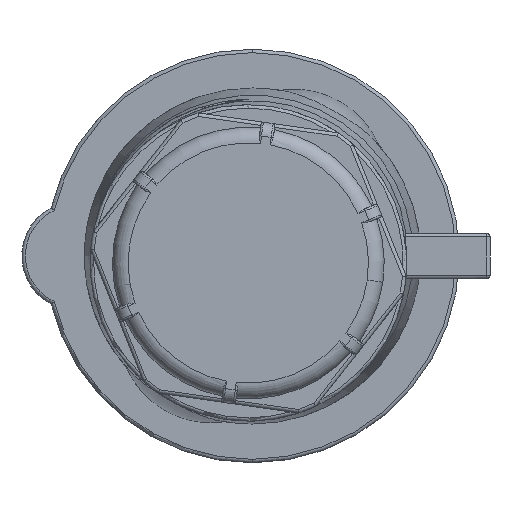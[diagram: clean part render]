
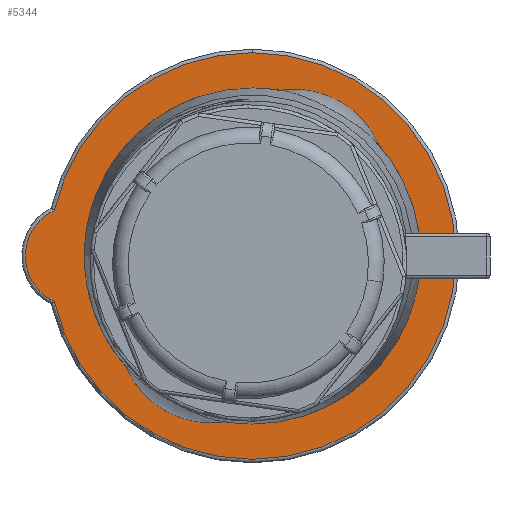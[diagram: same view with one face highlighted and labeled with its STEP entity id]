
A CAD part, front view. The second image highlights one B-rep face of the part: STEP entity #5344.
In plain terms, the highlighted planar face has unit normal (0, -1, 0).
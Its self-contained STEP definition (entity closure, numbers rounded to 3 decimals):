
#223 = DIRECTION ( 'NONE',  ( 0., 0., 1. ) ) ;
#475 = DIRECTION ( 'NONE',  ( 0., -1., 0. ) ) ;
#939 = AXIS2_PLACEMENT_3D ( 'NONE', #6172, #475, #3461 ) ;
#1205 = AXIS2_PLACEMENT_3D ( 'NONE', #11692, #14218, #14305 ) ;
#1916 = AXIS2_PLACEMENT_3D ( 'NONE', #7369, #2969, #11297 ) ;
#2148 = VERTEX_POINT ( 'NONE', #3324 ) ;
#2969 = DIRECTION ( 'NONE',  ( 0., -1., 0. ) ) ;
#3324 = CARTESIAN_POINT ( 'NONE',  ( -458.749, 7.263, 7.517 ) ) ;
#3461 = DIRECTION ( 'NONE',  ( 0., 0., 1. ) ) ;
#3882 = EDGE_CURVE ( 'NONE', #15169, #5036, #12633, .T. ) ;
#4035 = CIRCLE ( 'NONE', #11185, 29.1 ) ;
#5036 = VERTEX_POINT ( 'NONE', #17151 ) ;
#5344 = ADVANCED_FACE ( 'NONE', ( #14126, #7226 ), #8622, .F. ) ;
#5454 = CIRCLE ( 'NONE', #12598, 24.05 ) ;
#5579 = EDGE_LOOP ( 'NONE', ( #18109, #8547, #13973, #7674 ) ) ;
#6172 = CARTESIAN_POINT ( 'NONE',  ( -455.688, 7.263, 1. ) ) ;
#6511 = VERTEX_POINT ( 'NONE', #12797 ) ;
#6630 = CARTESIAN_POINT ( 'NONE',  ( -430.388, 7.263, 25.05 ) ) ;
#7127 = DIRECTION ( 'NONE',  ( 0., -1., 0. ) ) ;
#7226 = FACE_BOUND ( 'NONE', #9422, .T. ) ;
#7369 = CARTESIAN_POINT ( 'NONE',  ( -430.388, 7.263, 1. ) ) ;
#7483 = DIRECTION ( 'NONE',  ( 0., 0., 1. ) ) ;
#7674 = ORIENTED_EDGE ( 'NONE', *, *, #9743, .T. ) ;
#7781 = VERTEX_POINT ( 'NONE', #15203 ) ;
#7991 = EDGE_CURVE ( 'NONE', #6511, #15169, #9077, .T. ) ;
#8547 = ORIENTED_EDGE ( 'NONE', *, *, #7991, .T. ) ;
#8622 = PLANE ( 'NONE',  #1205 ) ;
#8985 = AXIS2_PLACEMENT_3D ( 'NONE', #15465, #15750, #15839 ) ;
#9077 = CIRCLE ( 'NONE', #1916, 29.1 ) ;
#9422 = EDGE_LOOP ( 'NONE', ( #16076, #10071 ) ) ;
#9580 = DIRECTION ( 'NONE',  ( 0., -1., 0. ) ) ;
#9743 = EDGE_CURVE ( 'NONE', #5036, #2148, #4035, .T. ) ;
#10071 = ORIENTED_EDGE ( 'NONE', *, *, #11389, .F. ) ;
#10978 = CARTESIAN_POINT ( 'NONE',  ( -430.388, 7.263, 1. ) ) ;
#11142 = AXIS2_PLACEMENT_3D ( 'NONE', #13173, #7127, #223 ) ;
#11185 = AXIS2_PLACEMENT_3D ( 'NONE', #17643, #17460, #7483 ) ;
#11297 = DIRECTION ( 'NONE',  ( 0., 0., 1. ) ) ;
#11389 = EDGE_CURVE ( 'NONE', #18163, #7781, #5454, .T. ) ;
#11692 = CARTESIAN_POINT ( 'NONE',  ( -463.258, 7.263, -28.449 ) ) ;
#11862 = CARTESIAN_POINT ( 'NONE',  ( -430.388, 7.263, -28.1 ) ) ;
#12598 = AXIS2_PLACEMENT_3D ( 'NONE', #10978, #9580, #16650 ) ;
#12633 = CIRCLE ( 'NONE', #11142, 29.1 ) ;
#12797 = CARTESIAN_POINT ( 'NONE',  ( -458.749, 7.263, -5.517 ) ) ;
#13173 = CARTESIAN_POINT ( 'NONE',  ( -430.388, 7.263, 1. ) ) ;
#13973 = ORIENTED_EDGE ( 'NONE', *, *, #3882, .T. ) ;
#14126 = FACE_OUTER_BOUND ( 'NONE', #5579, .T. ) ;
#14218 = DIRECTION ( 'NONE',  ( 0., 1., 0. ) ) ;
#14305 = DIRECTION ( 'NONE',  ( 1., 0., 0. ) ) ;
#15169 = VERTEX_POINT ( 'NONE', #11862 ) ;
#15203 = CARTESIAN_POINT ( 'NONE',  ( -430.388, 7.263, -23.05 ) ) ;
#15243 = CIRCLE ( 'NONE', #939, 7.2 ) ;
#15465 = CARTESIAN_POINT ( 'NONE',  ( -430.388, 7.263, 1. ) ) ;
#15750 = DIRECTION ( 'NONE',  ( 0., -1., 0. ) ) ;
#15839 = DIRECTION ( 'NONE',  ( 0., 0., 1. ) ) ;
#16076 = ORIENTED_EDGE ( 'NONE', *, *, #18240, .F. ) ;
#16650 = DIRECTION ( 'NONE',  ( 0., 0., 1. ) ) ;
#17023 = CIRCLE ( 'NONE', #8985, 24.05 ) ;
#17151 = CARTESIAN_POINT ( 'NONE',  ( -430.388, 7.263, 30.1 ) ) ;
#17460 = DIRECTION ( 'NONE',  ( 0., -1., 0. ) ) ;
#17643 = CARTESIAN_POINT ( 'NONE',  ( -430.388, 7.263, 1. ) ) ;
#18017 = EDGE_CURVE ( 'NONE', #2148, #6511, #15243, .T. ) ;
#18109 = ORIENTED_EDGE ( 'NONE', *, *, #18017, .T. ) ;
#18163 = VERTEX_POINT ( 'NONE', #6630 ) ;
#18240 = EDGE_CURVE ( 'NONE', #7781, #18163, #17023, .T. ) ;
